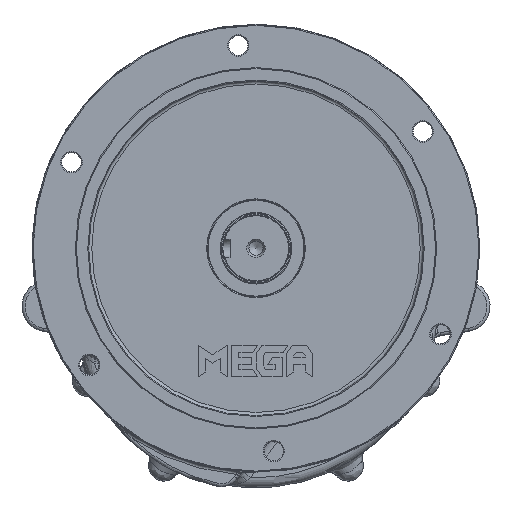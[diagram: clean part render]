
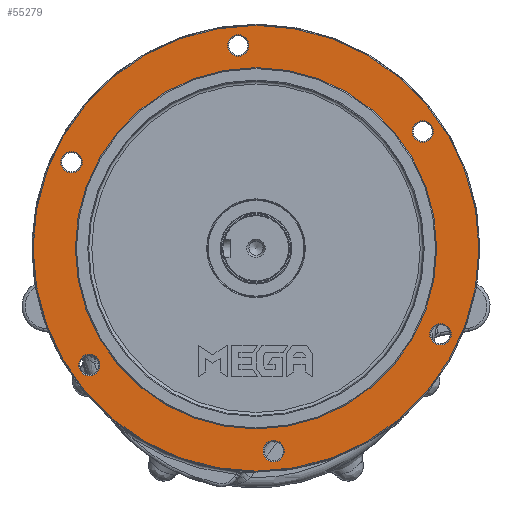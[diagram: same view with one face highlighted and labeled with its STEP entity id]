
A CAD part, front view. The second image highlights one B-rep face of the part: STEP entity #55279.
In plain terms, the highlighted planar face has unit normal (0, -1, 0).
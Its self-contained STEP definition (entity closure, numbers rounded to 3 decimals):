
#1218=FACE_BOUND('',#8997,.T.);
#1219=FACE_BOUND('',#8998,.T.);
#1220=FACE_BOUND('',#8999,.T.);
#1221=FACE_BOUND('',#9000,.T.);
#1222=FACE_BOUND('',#9001,.T.);
#1223=FACE_BOUND('',#9002,.T.);
#1224=FACE_BOUND('',#9003,.T.);
#2053=PLANE('',#60926);
#5548=FACE_OUTER_BOUND('',#8996,.T.);
#8996=EDGE_LOOP('',(#46082));
#8997=EDGE_LOOP('',(#46083));
#8998=EDGE_LOOP('',(#46084));
#8999=EDGE_LOOP('',(#46085));
#9000=EDGE_LOOP('',(#46086));
#9001=EDGE_LOOP('',(#46087));
#9002=EDGE_LOOP('',(#46088));
#9003=EDGE_LOOP('',(#46089));
#12442=CIRCLE('',#60765,219.);
#12445=CIRCLE('',#60770,177.5);
#12502=CIRCLE('',#60892,10.5);
#12513=CIRCLE('',#60907,10.5);
#12516=CIRCLE('',#60912,10.5);
#12519=CIRCLE('',#60917,10.5);
#12522=CIRCLE('',#60922,10.5);
#12525=CIRCLE('',#60927,10.5);
#24269=VERTEX_POINT('',#124451);
#24272=VERTEX_POINT('',#124460);
#24356=VERTEX_POINT('',#126091);
#24364=VERTEX_POINT('',#126116);
#24367=VERTEX_POINT('',#126126);
#24370=VERTEX_POINT('',#126136);
#24373=VERTEX_POINT('',#126146);
#24376=VERTEX_POINT('',#126156);
#31568=EDGE_CURVE('',#24269,#24269,#12442,.T.);
#31572=EDGE_CURVE('',#24272,#24272,#12445,.T.);
#31761=EDGE_CURVE('',#24356,#24356,#12502,.T.);
#31774=EDGE_CURVE('',#24364,#24364,#12513,.T.);
#31779=EDGE_CURVE('',#24367,#24367,#12516,.T.);
#31784=EDGE_CURVE('',#24370,#24370,#12519,.T.);
#31789=EDGE_CURVE('',#24373,#24373,#12522,.T.);
#31794=EDGE_CURVE('',#24376,#24376,#12525,.T.);
#46082=ORIENTED_EDGE('',*,*,#31568,.F.);
#46083=ORIENTED_EDGE('',*,*,#31789,.F.);
#46084=ORIENTED_EDGE('',*,*,#31779,.F.);
#46085=ORIENTED_EDGE('',*,*,#31761,.F.);
#46086=ORIENTED_EDGE('',*,*,#31572,.F.);
#46087=ORIENTED_EDGE('',*,*,#31774,.F.);
#46088=ORIENTED_EDGE('',*,*,#31784,.F.);
#46089=ORIENTED_EDGE('',*,*,#31794,.F.);
#55279=ADVANCED_FACE('',(#5548,#1218,#1219,#1220,#1221,#1222,#1223,#1224),
#2053,.T.);
#60765=AXIS2_PLACEMENT_3D('',#124453,#73856,#73857);
#60770=AXIS2_PLACEMENT_3D('',#124462,#73867,#73868);
#60892=AXIS2_PLACEMENT_3D('',#126092,#74198,#74199);
#60907=AXIS2_PLACEMENT_3D('',#126117,#74230,#74231);
#60912=AXIS2_PLACEMENT_3D('',#126127,#74242,#74243);
#60917=AXIS2_PLACEMENT_3D('',#126137,#74254,#74255);
#60922=AXIS2_PLACEMENT_3D('',#126147,#74266,#74267);
#60926=AXIS2_PLACEMENT_3D('',#126155,#74276,#74277);
#60927=AXIS2_PLACEMENT_3D('',#126157,#74278,#74279);
#73856=DIRECTION('center_axis',(0.,1.,0.));
#73857=DIRECTION('ref_axis',(-1.,0.,0.));
#73867=DIRECTION('center_axis',(0.,-1.,0.));
#73868=DIRECTION('ref_axis',(-1.,0.,0.));
#74198=DIRECTION('center_axis',(0.,-1.,0.));
#74199=DIRECTION('ref_axis',(-1.,0.,0.));
#74230=DIRECTION('center_axis',(0.,-1.,0.));
#74231=DIRECTION('ref_axis',(-0.5,0.,0.866));
#74242=DIRECTION('center_axis',(0.,-1.,0.));
#74243=DIRECTION('ref_axis',(0.5,0.,0.866));
#74254=DIRECTION('center_axis',(0.,-1.,0.));
#74255=DIRECTION('ref_axis',(1.,0.,0.));
#74266=DIRECTION('center_axis',(0.,-1.,0.));
#74267=DIRECTION('ref_axis',(0.5,0.,-0.866));
#74276=DIRECTION('center_axis',(0.,-1.,0.));
#74277=DIRECTION('ref_axis',(0.,0.,-1.));
#74278=DIRECTION('center_axis',(0.,-1.,0.));
#74279=DIRECTION('ref_axis',(-0.5,0.,-0.866));
#124451=CARTESIAN_POINT('',(206.309,-221.258,55.25));
#124453=CARTESIAN_POINT('Origin',(-12.691,-221.258,55.25));
#124460=CARTESIAN_POINT('',(164.809,-221.258,55.25));
#124462=CARTESIAN_POINT('Origin',(-12.691,-221.258,55.25));
#126091=CARTESIAN_POINT('',(-19.622,-221.258,254.489));
#126092=CARTESIAN_POINT('Origin',(-30.122,-221.258,254.489));
#126116=CARTESIAN_POINT('',(156.389,-221.258,160.872));
#126117=CARTESIAN_POINT('Origin',(151.139,-221.258,169.965));
#126126=CARTESIAN_POINT('',(163.32,-221.258,-38.367));
#126127=CARTESIAN_POINT('Origin',(168.57,-221.258,-29.274));
#126136=CARTESIAN_POINT('',(-5.76,-221.258,-143.989));
#126137=CARTESIAN_POINT('Origin',(4.74,-221.258,-143.989));
#126146=CARTESIAN_POINT('',(-181.772,-221.258,-50.372));
#126147=CARTESIAN_POINT('Origin',(-176.522,-221.258,-59.465));
#126155=CARTESIAN_POINT('Origin',(-12.691,-221.258,55.25));
#126156=CARTESIAN_POINT('',(-188.703,-221.258,148.867));
#126157=CARTESIAN_POINT('Origin',(-193.953,-221.258,139.774));
